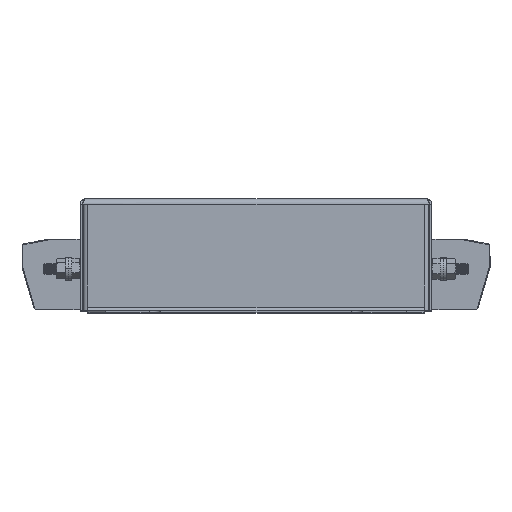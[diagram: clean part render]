
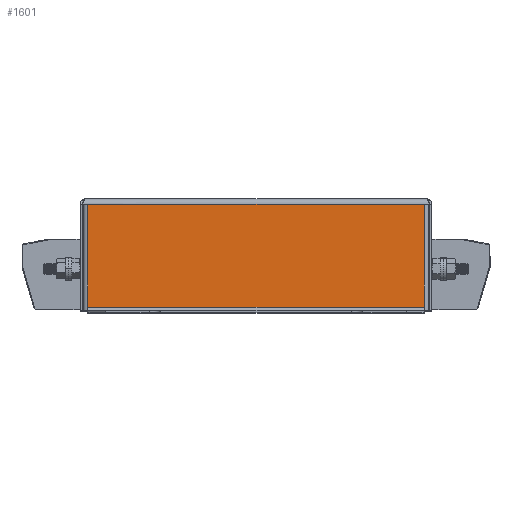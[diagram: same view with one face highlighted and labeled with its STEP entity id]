
A CAD part, top view. The second image highlights one B-rep face of the part: STEP entity #1601.
In plain terms, the highlighted planar face has unit normal (0, 0, 1).
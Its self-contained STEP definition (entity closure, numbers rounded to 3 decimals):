
#5 = PLANE ( 'NONE',  #9324 ) ;
#213 = VERTEX_POINT ( 'NONE', #2710 ) ;
#668 = EDGE_CURVE ( 'NONE', #2681, #1408, #3507, .T. ) ;
#775 = VECTOR ( 'NONE', #8409, 1000. ) ;
#827 = CARTESIAN_POINT ( 'NONE',  ( 197.6, 0., 118.8 ) ) ;
#834 = EDGE_CURVE ( 'NONE', #213, #4503, #9273, .T. ) ;
#1226 = VECTOR ( 'NONE', #1947, 1000. ) ;
#1256 = EDGE_LOOP ( 'NONE', ( #4854, #3333, #10726, #2915 ) ) ;
#1408 = VERTEX_POINT ( 'NONE', #11333 ) ;
#1601 = ADVANCED_FACE ( 'NONE', ( #8071 ), #5, .F. ) ;
#1947 = DIRECTION ( 'NONE',  ( -1., 0., 0. ) ) ;
#2681 = VERTEX_POINT ( 'NONE', #5612 ) ;
#2710 = CARTESIAN_POINT ( 'NONE',  ( 3.271, -2., 118.8 ) ) ;
#2915 = ORIENTED_EDGE ( 'NONE', *, *, #3501, .T. ) ;
#3095 = CARTESIAN_POINT ( 'NONE',  ( 194.329, -2., 118.8 ) ) ;
#3222 = VECTOR ( 'NONE', #3226, 1000. ) ;
#3226 = DIRECTION ( 'NONE',  ( 1., 0., 0. ) ) ;
#3333 = ORIENTED_EDGE ( 'NONE', *, *, #9652, .T. ) ;
#3501 = EDGE_CURVE ( 'NONE', #213, #1408, #3907, .T. ) ;
#3507 = LINE ( 'NONE', #9222, #1226 ) ;
#3885 = DIRECTION ( 'NONE',  ( 0., -1., 0. ) ) ;
#3907 = LINE ( 'NONE', #6769, #7339 ) ;
#4425 = DIRECTION ( 'NONE',  ( 0., 1., 0. ) ) ;
#4503 = VERTEX_POINT ( 'NONE', #3095 ) ;
#4854 = ORIENTED_EDGE ( 'NONE', *, *, #668, .F. ) ;
#5612 = CARTESIAN_POINT ( 'NONE',  ( 194.329, -60.4, 118.8 ) ) ;
#6769 = CARTESIAN_POINT ( 'NONE',  ( 3.271, -2., 118.8 ) ) ;
#7339 = VECTOR ( 'NONE', #3885, 1000. ) ;
#7346 = DIRECTION ( 'NONE',  ( 0., 0., -1. ) ) ;
#8071 = FACE_OUTER_BOUND ( 'NONE', #1256, .T. ) ;
#8275 = CARTESIAN_POINT ( 'NONE',  ( 194.329, -62.4, 118.8 ) ) ;
#8409 = DIRECTION ( 'NONE',  ( 0., 1., 0. ) ) ;
#8720 = CARTESIAN_POINT ( 'NONE',  ( 197.6, -2., 118.8 ) ) ;
#9222 = CARTESIAN_POINT ( 'NONE',  ( 194.329, -60.4, 118.8 ) ) ;
#9273 = LINE ( 'NONE', #8720, #3222 ) ;
#9324 = AXIS2_PLACEMENT_3D ( 'NONE', #827, #7346, #4425 ) ;
#9405 = LINE ( 'NONE', #8275, #775 ) ;
#9652 = EDGE_CURVE ( 'NONE', #2681, #4503, #9405, .T. ) ;
#10726 = ORIENTED_EDGE ( 'NONE', *, *, #834, .F. ) ;
#11333 = CARTESIAN_POINT ( 'NONE',  ( 3.271, -60.4, 118.8 ) ) ;
